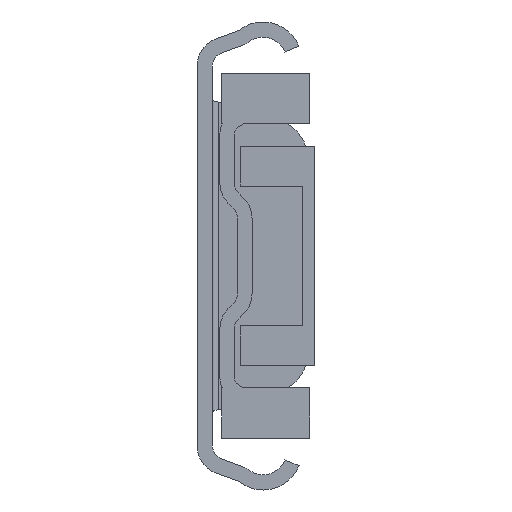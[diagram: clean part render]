
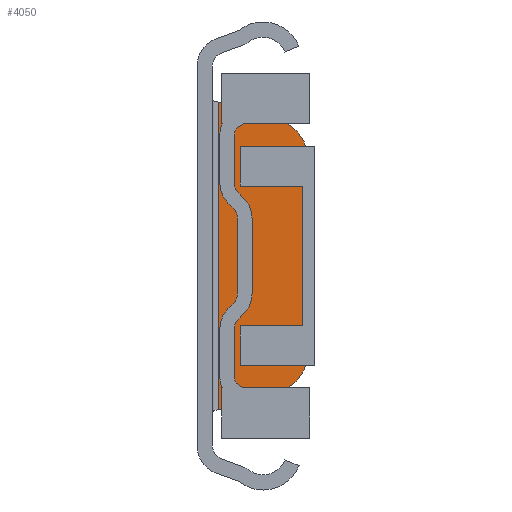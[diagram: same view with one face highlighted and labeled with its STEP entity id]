
A CAD part, front view. The second image highlights one B-rep face of the part: STEP entity #4050.
In plain terms, the highlighted planar face has unit normal (0, -1, 0).
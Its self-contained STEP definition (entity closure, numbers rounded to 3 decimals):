
#376=LINE('',#7067,#764);
#377=LINE('',#7072,#765);
#378=LINE('',#7076,#766);
#379=LINE('',#7078,#767);
#764=VECTOR('',#5875,1000.);
#765=VECTOR('',#5878,1000.);
#766=VECTOR('',#5881,1000.);
#767=VECTOR('',#5882,1000.);
#906=PLANE('',#4835);
#1864=ORIENTED_EDGE('',*,*,#2563,.F.);
#1865=ORIENTED_EDGE('',*,*,#2564,.F.);
#1866=ORIENTED_EDGE('',*,*,#2565,.F.);
#1867=ORIENTED_EDGE('',*,*,#2566,.F.);
#1868=ORIENTED_EDGE('',*,*,#2567,.F.);
#1869=ORIENTED_EDGE('',*,*,#2568,.F.);
#2563=EDGE_CURVE('',#2992,#2993,#376,.T.);
#2564=EDGE_CURVE('',#2994,#2992,#3207,.F.);
#2565=EDGE_CURVE('',#2995,#2994,#377,.T.);
#2566=EDGE_CURVE('',#2996,#2995,#3208,.F.);
#2567=EDGE_CURVE('',#2997,#2996,#378,.T.);
#2568=EDGE_CURVE('',#2993,#2997,#379,.T.);
#2992=VERTEX_POINT('',#7068);
#2993=VERTEX_POINT('',#7069);
#2994=VERTEX_POINT('',#7071);
#2995=VERTEX_POINT('',#7073);
#2996=VERTEX_POINT('',#7075);
#2997=VERTEX_POINT('',#7077);
#3207=CIRCLE('',#4836,8.);
#3208=CIRCLE('',#4837,8.);
#3454=EDGE_LOOP('',(#1864,#1865,#1866,#1867,#1868,#1869));
#3728=FACE_BOUND('',#3454,.T.);
#4050=ADVANCED_FACE('',(#3728),#906,.T.);
#4835=AXIS2_PLACEMENT_3D('',#7066,#5873,#5874);
#4836=AXIS2_PLACEMENT_3D('',#7070,#5876,#5877);
#4837=AXIS2_PLACEMENT_3D('',#7074,#5879,#5880);
#5873=DIRECTION('',(0.,-1.,0.));
#5874=DIRECTION('',(0.,0.,-1.));
#5875=DIRECTION('',(-0.966,0.,-0.259));
#5876=DIRECTION('',(0.,-1.,0.));
#5877=DIRECTION('',(0.,0.,-1.));
#5878=DIRECTION('',(0.,0.,-1.));
#5879=DIRECTION('',(0.,-1.,0.));
#5880=DIRECTION('',(0.,0.,-1.));
#5881=DIRECTION('',(0.966,0.,-0.259));
#5882=DIRECTION('',(0.,0.,1.));
#7066=CARTESIAN_POINT('',(12.9,1216.7,14.965));
#7067=CARTESIAN_POINT('',(22.316,1216.7,-20.174));
#7068=CARTESIAN_POINT('',(12.471,1216.7,-22.812));
#7069=CARTESIAN_POINT('',(3.5,1216.7,-25.216));
#7070=CARTESIAN_POINT('',(10.4,1216.7,-15.085));
#7071=CARTESIAN_POINT('',(18.4,1216.7,-15.085));
#7072=CARTESIAN_POINT('',(18.4,1216.7,14.965));
#7073=CARTESIAN_POINT('',(18.4,1216.7,15.085));
#7074=CARTESIAN_POINT('',(10.4,1216.7,15.085));
#7075=CARTESIAN_POINT('',(12.471,1216.7,22.812));
#7076=CARTESIAN_POINT('',(14.833,1216.7,22.179));
#7077=CARTESIAN_POINT('',(3.5,1216.7,25.216));
#7078=CARTESIAN_POINT('',(3.5,1216.7,-25.766));
